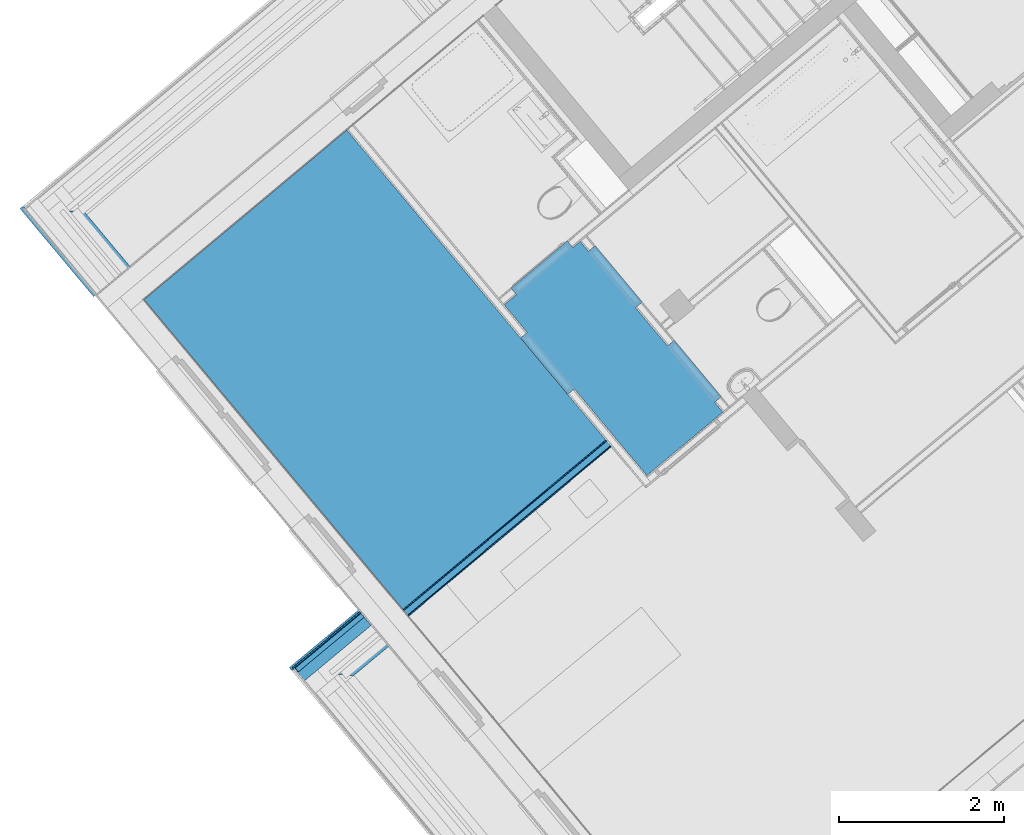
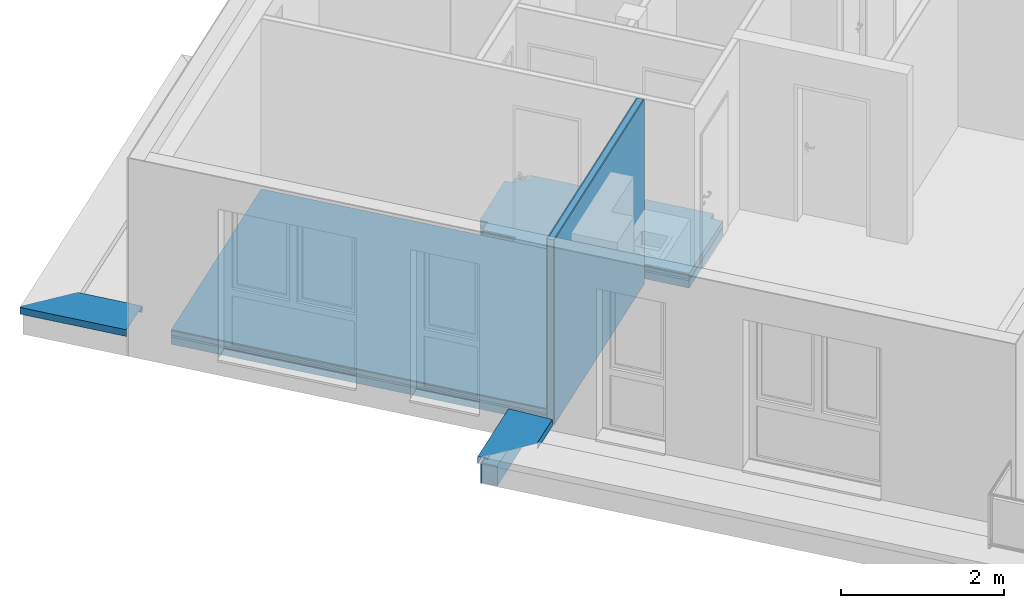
# One storey, part 24 of 61: 16 building element parts, 5 elements without a shape of their own.
"""IFC4 building model written with IfcOpenShell, lengths in metres."""

from ifc_helpers import new_model, entity, si_unit, converted_unit, derived_unit, direction, frame, origin_with_axes, place, context, subcontext, project, spatial, polygons, material, type_object, element, aggregate, save


model = new_model("IFC4")

# Units and contexts
model_context = context("Model", 3, precision=1e-05, world=origin_with_axes(), true_north=direction((0.0, 1.0)))
body_context = subcontext(model_context, "Body", "Model", "MODEL_VIEW")
ifc_project = project(units=[si_unit("LENGTHUNIT", "METRE"), si_unit("AREAUNIT", "SQUARE_METRE"), si_unit("VOLUMEUNIT", "CUBIC_METRE"), converted_unit("PLANEANGLEUNIT", "DEGREE", entity("IfcPlaneAngleMeasure", 0.0174532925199), si_unit("PLANEANGLEUNIT", "RADIAN"), dimensions=[0, 0, 0, 0, 0, 0, 0]), converted_unit("TIMEUNIT", "Year", entity("IfcTimeMeasure", 31556926.0), si_unit("TIMEUNIT", "SECOND"), dimensions=[0, 0, 1, 0, 0, 0, 0]), si_unit("MASSUNIT", "GRAM", prefix="KILO"), si_unit("THERMODYNAMICTEMPERATUREUNIT", "DEGREE_CELSIUS"), si_unit("LUMINOUSINTENSITYUNIT", "LUMEN"), si_unit("ENERGYUNIT", "JOULE", prefix="MEGA"), derived_unit("THERMALCONDUCTANCEUNIT", [(si_unit("POWERUNIT", "WATT"), 1), (si_unit("LENGTHUNIT", "METRE"), -1), (si_unit("THERMODYNAMICTEMPERATUREUNIT", "KELVIN"), -1)]), derived_unit("SPECIFICHEATCAPACITYUNIT", [(si_unit("ENERGYUNIT", "JOULE"), 1), (si_unit("MASSUNIT", "GRAM", prefix="KILO"), -1), (si_unit("THERMODYNAMICTEMPERATUREUNIT", "KELVIN"), -1)]), derived_unit("MASSDENSITYUNIT", [(si_unit("MASSUNIT", "GRAM", prefix="KILO"), 1), (si_unit("VOLUMEUNIT", "CUBIC_METRE"), -1)])], contexts=[model_context])

# Site, building, storey
site_placement = place(None, frame((-0.00153261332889, -0.00661245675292, 0.0), z_axis=(0.0, 0.0, 1.0), x_axis=(1.0, 0.0, 0.0)))
site = spatial("IfcSite", under=ifc_project, at=site_placement, Name="Gelände", CompositionType="ELEMENT")
building_placement = place(site_placement, origin_with_axes())
building = spatial("IfcBuilding", under=site, at=building_placement, Name="Gebäude", CompositionType="ELEMENT")
storey_placement = place(building_placement, frame((0.0, 0.0, 5.7), z_axis=(0.0, 0.0, 1.0), x_axis=(1.0, 0.0, 0.0)))
storey = spatial("IfcBuildingStorey", under=building, at=storey_placement, Name="DG1", CompositionType="ELEMENT", Elevation=5.7)

# Wall, building element parts
wall_type_1 = type_object("IfcWallType", Name="IW LB 01 Leichtbautrennwand einfach 10,5 cm 105", PredefinedType="NOTDEFINED")
wall_1_placement = place(storey_placement, frame((-2.49988703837, 17.264591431, 0.0), z_axis=(0.0, 0.0, 1.0), x_axis=(-0.767365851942, -0.641209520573, 0.0)))
wall_1 = element("IfcWall", 1, at=wall_1_placement, inside=storey, type_object=wall_type_1, Name="Wand-012", PredefinedType="NOTDEFINED")
ifc_material_1 = material(Name="Gipskarton")
building_element_part_1_placement = place(wall_1_placement, origin_with_axes())
building_element_part_1 = element("IfcBuildingElementPart", 2, at=building_element_part_1_placement, material=ifc_material_1, Name="Gipskarton", PredefinedType="NOTDEFINED", context=body_context, shape_type="Tessellation", body=[
    polygons([(3.20025354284, 0.09, 0.0), (0.0, 0.09, 0.0), (0.0, 0.105, 0.0), (3.20025354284, 0.105, 0.0), (3.20025354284, 0.09, 2.76), (0.0, 0.09, 2.76), (0.0, 0.105, 2.76), (3.20025354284, 0.105, 2.76)], [[[1, 2, 3, 4]], [[5, 6, 2, 1]], [[3, 2, 6, 7]], [[4, 3, 7, 8]], [[4, 8, 5, 1]], [[8, 7, 6, 5]]], closed=True),
])
ifc_material_2 = material(Name="Mineralwolle weich")
building_element_part_2_placement = place(wall_1_placement, origin_with_axes())
building_element_part_2 = element("IfcBuildingElementPart", 3, at=building_element_part_2_placement, material=ifc_material_2, Name="Mineralwolle weich", PredefinedType="NOTDEFINED", context=body_context, shape_type="Tessellation", body=[
    polygons([(3.20025354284, 0.015, 0.0), (0.0, 0.015, 0.0), (0.0, 0.09, 0.0), (3.20025354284, 0.09, 0.0), (3.20025354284, 0.015, 2.76), (0.0, 0.015, 2.76), (0.0, 0.09, 2.76), (3.20025354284, 0.09, 2.76)], [[[1, 2, 3, 4]], [[5, 6, 2, 1]], [[3, 2, 6, 7]], [[4, 3, 7, 8]], [[4, 8, 5, 1]], [[8, 7, 6, 5]]], closed=True),
])
building_element_part_3_placement = place(wall_1_placement, origin_with_axes())
building_element_part_3 = element("IfcBuildingElementPart", 4, at=building_element_part_3_placement, material=ifc_material_1, Name="Gipskarton", PredefinedType="NOTDEFINED", context=body_context, shape_type="Tessellation", body=[
    polygons([(3.20025354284, 0.0, 0.0), (0.0, 0.0, 0.0), (0.0, 0.015, 0.0), (3.20025354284, 0.015, 0.0), (3.20025354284, 0.0, 2.76), (0.0, 0.0, 2.76), (0.0, 0.015, 2.76), (3.20025354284, 0.015, 2.76)], [[[1, 2, 3, 4]], [[5, 6, 2, 1]], [[3, 2, 6, 7]], [[4, 3, 7, 8]], [[4, 8, 5, 1]], [[8, 7, 6, 5]]], closed=True),
])
aggregate(wall_1, [building_element_part_1, building_element_part_2, building_element_part_3])

# Space
space_placement = place(storey_placement, frame((-3.73003284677, 18.9005183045, 0.0), z_axis=(0.0, 0.0, 1.0), x_axis=(0.641209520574, -0.767365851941, 0.0)))
space = spatial("IfcSpace", under=storey, at=space_placement, CompositionType="ELEMENT", PredefinedType="NOTDEFINED")

# Covering, building element parts
covering_type_1 = type_object("IfcCoveringType", Name="DE 01 Decke Wohnung/Wohnung Fließen 220", PredefinedType="NOTDEFINED")
covering_1_placement = place(space_placement, frame((-0.000120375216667, 0.192623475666, 0.22), z_axis=(0.0, 0.0, 1.0), x_axis=(0.641209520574, 0.767365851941, 0.0)))
covering_1 = element("IfcCovering", 5, at=covering_1_placement, inside=space, type_object=covering_type_1, Name="Decke-003", PredefinedType="NOTDEFINED")
ifc_material_3 = material(Name="Fliesen")
building_element_part_4_placement = place(covering_1_placement, origin_with_axes())
building_element_part_4 = element("IfcBuildingElementPart", 6, at=building_element_part_4_placement, material=ifc_material_3, Name="Fliesen", PredefinedType="NOTDEFINED", context=body_context, shape_type="Tessellation", body=[
    polygons([(0.772026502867, 0.645686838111, -0.015), (0.772026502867, 0.645686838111, 0.0), (0.871992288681, 0.526053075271, 0.0), (0.871992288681, 0.526053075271, -0.015), (0.682704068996, 0.570977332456, 0.0), (0.682704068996, 0.570977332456, -0.015), (0.6825988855, 0.57110308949, 0.0), (0.615338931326, 0.651518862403, 0.0), (-0.0673464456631, 0.0805191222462, 0.0), (-1.94673659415e-08, -1.62825521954e-08, 0.0), (1.87046381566e-05, -2.24027601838e-05, 0.0), (-0.147735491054, -0.123604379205, 0.0), (0.13108354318, -0.457280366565, 0.0), (0.0505101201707, -0.524607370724, 0.0), (0.621186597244, -1.20756298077, 0.0), (0.701760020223, -1.14023597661, 0.0), (1.57974343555, -2.1909603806, 0.0), (2.49986944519, -1.42210479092, 0.0), (2.40026170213, -1.30289938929, 0.0), (2.48083508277, -1.23557242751, 0.0), (1.91015864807, -0.552616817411, 0.0), (1.82958522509, -0.61994382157, 0.0), (1.44266872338, -0.156902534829, 0.0), (1.52324214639, -0.0895755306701, 0.0), (0.952565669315, 0.59338007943, 0.0), (0.952565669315, 0.59338007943, -0.015), (1.52324214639, -0.0895755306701, -0.015), (1.44266872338, -0.156902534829, -0.015), (1.82958522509, -0.61994382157, -0.015), (1.91015864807, -0.552616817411, -0.015), (2.48083508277, -1.23557242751, -0.015), (2.40026170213, -1.30289938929, -0.015), (2.49986944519, -1.42210479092, -0.015), (1.57974343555, -2.1909603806, -0.015), (0.701760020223, -1.14023597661, -0.015), (0.621186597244, -1.20756298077, -0.015), (0.0505101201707, -0.524607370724, -0.015), (0.13108354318, -0.457280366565, -0.015), (-0.147735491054, -0.123604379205, -0.015), (1.87046381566e-05, -2.24027601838e-05, -0.015), (-1.94673659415e-08, -1.62825521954e-08, -0.015), (-0.0673464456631, 0.0805191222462, -0.015), (0.615338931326, 0.651518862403, -0.015), (0.6825988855, 0.57110308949, -0.015)], [[[1, 2, 3, 4]], [[5, 2, 1, 6]], [[5, 7, 8, 9, 10, 11, 12, 13, 14, 15, 16, 17, 18, 19, 20, 21, 22, 23, 24, 25, 3, 2]], [[26, 4, 3, 25]], [[6, 1, 4, 26, 27, 28, 29, 30, 31, 32, 33, 34, 35, 36, 37, 38, 39, 40, 41, 42, 43, 44]], [[7, 5, 6, 44]], [[7, 44, 43, 8]], [[43, 42, 9, 8]], [[41, 10, 9, 42]], [[11, 10, 41, 40]], [[12, 11, 40, 39]], [[12, 39, 38, 13]], [[38, 37, 14, 13]], [[37, 36, 15, 14]], [[36, 35, 16, 15]], [[35, 34, 17, 16]], [[34, 33, 18, 17]], [[33, 32, 19, 18]], [[32, 31, 20, 19]], [[31, 30, 21, 20]], [[30, 29, 22, 21]], [[29, 28, 23, 22]], [[28, 27, 24, 23]], [[27, 26, 25, 24]]], closed=True),
])
ifc_material_4 = material(Name="Estrich")
building_element_part_5_placement = place(covering_1_placement, origin_with_axes())
building_element_part_5 = element("IfcBuildingElementPart", 7, at=building_element_part_5_placement, material=ifc_material_4, Name="Estrich", PredefinedType="NOTDEFINED", context=body_context, shape_type="Tessellation", body=[
    polygons([(0.772026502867, 0.645686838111, -0.08), (0.772026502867, 0.645686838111, -0.015), (0.871992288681, 0.526053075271, -0.015), (0.871992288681, 0.526053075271, -0.08), (0.682704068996, 0.570977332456, -0.015), (0.682704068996, 0.570977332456, -0.08), (0.6825988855, 0.57110308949, -0.015), (0.615338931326, 0.651518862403, -0.015), (-0.0673464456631, 0.0805191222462, -0.015), (-1.94673659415e-08, -1.62825521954e-08, -0.015), (1.87046381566e-05, -2.24027601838e-05, -0.015), (-0.147735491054, -0.123604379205, -0.015), (0.13108354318, -0.457280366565, -0.015), (0.0505101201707, -0.524607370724, -0.015), (0.621186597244, -1.20756298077, -0.015), (0.701760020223, -1.14023597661, -0.015), (1.57974343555, -2.1909603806, -0.015), (2.49986944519, -1.42210479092, -0.015), (2.40026170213, -1.30289938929, -0.015), (2.48083508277, -1.23557242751, -0.015), (1.91015864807, -0.552616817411, -0.015), (1.82958522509, -0.61994382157, -0.015), (1.44266872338, -0.156902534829, -0.015), (1.52324214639, -0.0895755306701, -0.015), (0.952565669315, 0.59338007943, -0.015), (0.952565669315, 0.59338007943, -0.08), (1.52324214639, -0.0895755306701, -0.08), (1.44266872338, -0.156902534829, -0.08), (1.82958522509, -0.61994382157, -0.08), (1.91015864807, -0.552616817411, -0.08), (2.48083508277, -1.23557242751, -0.08), (2.40026170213, -1.30289938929, -0.08), (2.49986944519, -1.42210479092, -0.08), (1.57974343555, -2.1909603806, -0.08), (0.701760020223, -1.14023597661, -0.08), (0.621186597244, -1.20756298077, -0.08), (0.0505101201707, -0.524607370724, -0.08), (0.13108354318, -0.457280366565, -0.08), (-0.147735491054, -0.123604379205, -0.08), (1.87046381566e-05, -2.24027601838e-05, -0.08), (-1.94673659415e-08, -1.62825521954e-08, -0.08), (-0.0673464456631, 0.0805191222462, -0.08), (0.615338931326, 0.651518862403, -0.08), (0.6825988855, 0.57110308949, -0.08)], [[[1, 2, 3, 4]], [[5, 2, 1, 6]], [[5, 7, 8, 9, 10, 11, 12, 13, 14, 15, 16, 17, 18, 19, 20, 21, 22, 23, 24, 25, 3, 2]], [[26, 4, 3, 25]], [[6, 1, 4, 26, 27, 28, 29, 30, 31, 32, 33, 34, 35, 36, 37, 38, 39, 40, 41, 42, 43, 44]], [[7, 5, 6, 44]], [[7, 44, 43, 8]], [[43, 42, 9, 8]], [[41, 10, 9, 42]], [[11, 10, 41, 40]], [[12, 11, 40, 39]], [[12, 39, 38, 13]], [[38, 37, 14, 13]], [[37, 36, 15, 14]], [[36, 35, 16, 15]], [[35, 34, 17, 16]], [[34, 33, 18, 17]], [[33, 32, 19, 18]], [[32, 31, 20, 19]], [[31, 30, 21, 20]], [[30, 29, 22, 21]], [[29, 28, 23, 22]], [[28, 27, 24, 23]], [[27, 26, 25, 24]]], closed=True),
])
ifc_material_5 = material(Name="Trittschalldämmung")
building_element_part_6_placement = place(covering_1_placement, origin_with_axes())
building_element_part_6 = element("IfcBuildingElementPart", 8, at=building_element_part_6_placement, material=ifc_material_5, Name="Trittschalldämmung", PredefinedType="NOTDEFINED", context=body_context, shape_type="Tessellation", body=[
    polygons([(0.772026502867, 0.645686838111, -0.11), (0.772026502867, 0.645686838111, -0.08), (0.871992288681, 0.526053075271, -0.08), (0.871992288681, 0.526053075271, -0.11), (0.682704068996, 0.570977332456, -0.08), (0.682704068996, 0.570977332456, -0.11), (0.6825988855, 0.57110308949, -0.08), (0.615338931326, 0.651518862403, -0.08), (-0.0673464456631, 0.0805191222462, -0.08), (-1.94673659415e-08, -1.62825521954e-08, -0.08), (1.87046381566e-05, -2.24027601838e-05, -0.08), (-0.147735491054, -0.123604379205, -0.08), (0.13108354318, -0.457280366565, -0.08), (0.0505101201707, -0.524607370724, -0.08), (0.621186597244, -1.20756298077, -0.08), (0.701760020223, -1.14023597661, -0.08), (1.57974343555, -2.1909603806, -0.08), (2.49986944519, -1.42210479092, -0.08), (2.40026170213, -1.30289938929, -0.08), (2.48083508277, -1.23557242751, -0.08), (1.91015864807, -0.552616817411, -0.08), (1.82958522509, -0.61994382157, -0.08), (1.44266872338, -0.156902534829, -0.08), (1.52324214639, -0.0895755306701, -0.08), (0.952565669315, 0.59338007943, -0.08), (0.952565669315, 0.59338007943, -0.11), (1.52324214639, -0.0895755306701, -0.11), (1.44266872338, -0.156902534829, -0.11), (1.82958522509, -0.61994382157, -0.11), (1.91015864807, -0.552616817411, -0.11), (2.48083508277, -1.23557242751, -0.11), (2.40026170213, -1.30289938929, -0.11), (2.49986944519, -1.42210479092, -0.11), (1.57974343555, -2.1909603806, -0.11), (0.701760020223, -1.14023597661, -0.11), (0.621186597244, -1.20756298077, -0.11), (0.0505101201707, -0.524607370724, -0.11), (0.13108354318, -0.457280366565, -0.11), (-0.147735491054, -0.123604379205, -0.11), (1.87046381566e-05, -2.24027601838e-05, -0.11), (-1.94673659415e-08, -1.62825521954e-08, -0.11), (-0.0673464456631, 0.0805191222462, -0.11), (0.615338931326, 0.651518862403, -0.11), (0.6825988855, 0.57110308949, -0.11)], [[[1, 2, 3, 4]], [[5, 2, 1, 6]], [[5, 7, 8, 9, 10, 11, 12, 13, 14, 15, 16, 17, 18, 19, 20, 21, 22, 23, 24, 25, 3, 2]], [[26, 4, 3, 25]], [[6, 1, 4, 26, 27, 28, 29, 30, 31, 32, 33, 34, 35, 36, 37, 38, 39, 40, 41, 42, 43, 44]], [[7, 5, 6, 44]], [[7, 44, 43, 8]], [[43, 42, 9, 8]], [[41, 10, 9, 42]], [[11, 10, 41, 40]], [[12, 11, 40, 39]], [[12, 39, 38, 13]], [[38, 37, 14, 13]], [[37, 36, 15, 14]], [[36, 35, 16, 15]], [[35, 34, 17, 16]], [[34, 33, 18, 17]], [[33, 32, 19, 18]], [[32, 31, 20, 19]], [[31, 30, 21, 20]], [[30, 29, 22, 21]], [[29, 28, 23, 22]], [[28, 27, 24, 23]], [[27, 26, 25, 24]]], closed=True),
])
ifc_material_6 = material(Name="Schüttung")
building_element_part_7_placement = place(covering_1_placement, origin_with_axes())
building_element_part_7 = element("IfcBuildingElementPart", 9, at=building_element_part_7_placement, material=ifc_material_6, Name="Schüttung", PredefinedType="NOTDEFINED", context=body_context, shape_type="Tessellation", body=[
    polygons([(0.772026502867, 0.645686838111, -0.22), (0.772026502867, 0.645686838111, -0.11), (0.871992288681, 0.526053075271, -0.11), (0.871992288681, 0.526053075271, -0.22), (0.682704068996, 0.570977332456, -0.11), (0.682704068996, 0.570977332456, -0.22), (0.6825988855, 0.57110308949, -0.11), (0.615338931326, 0.651518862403, -0.11), (-0.0673464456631, 0.0805191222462, -0.11), (-1.94673659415e-08, -1.62825521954e-08, -0.11), (1.87046381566e-05, -2.24027601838e-05, -0.11), (-0.147735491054, -0.123604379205, -0.11), (0.13108354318, -0.457280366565, -0.11), (0.0505101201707, -0.524607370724, -0.11), (0.621186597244, -1.20756298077, -0.11), (0.701760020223, -1.14023597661, -0.11), (1.57974343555, -2.1909603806, -0.11), (2.49986944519, -1.42210479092, -0.11), (2.40026170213, -1.30289938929, -0.11), (2.48083508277, -1.23557242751, -0.11), (1.91015864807, -0.552616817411, -0.11), (1.82958522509, -0.61994382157, -0.11), (1.44266872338, -0.156902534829, -0.11), (1.52324214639, -0.0895755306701, -0.11), (0.952565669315, 0.59338007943, -0.11), (0.952565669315, 0.59338007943, -0.22), (1.52324214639, -0.0895755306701, -0.22), (1.44266872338, -0.156902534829, -0.22), (1.82958522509, -0.61994382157, -0.22), (1.91015864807, -0.552616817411, -0.22), (2.48083508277, -1.23557242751, -0.22), (2.40026170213, -1.30289938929, -0.22), (2.49986944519, -1.42210479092, -0.22), (1.57974343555, -2.1909603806, -0.22), (0.701760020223, -1.14023597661, -0.22), (0.621186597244, -1.20756298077, -0.22), (0.0505101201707, -0.524607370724, -0.22), (0.13108354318, -0.457280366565, -0.22), (-0.147735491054, -0.123604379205, -0.22), (1.87046381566e-05, -2.24027601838e-05, -0.22), (-1.94673646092e-08, -1.62825521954e-08, -0.22), (-0.0673464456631, 0.0805191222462, -0.22), (0.615338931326, 0.651518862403, -0.22), (0.682598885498, 0.571103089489, -0.22)], [[[1, 2, 3, 4]], [[5, 2, 1, 6]], [[5, 7, 8, 9, 10, 11, 12, 13, 14, 15, 16, 17, 18, 19, 20, 21, 22, 23, 24, 25, 3, 2]], [[25, 26, 4, 3]], [[6, 1, 4, 26, 27, 28, 29, 30, 31, 32, 33, 34, 35, 36, 37, 38, 39, 40, 41, 42, 43, 44]], [[7, 5, 6, 44]], [[7, 44, 43, 8]], [[8, 43, 42, 9]], [[41, 10, 9, 42]], [[11, 10, 41, 40]], [[12, 11, 40, 39]], [[12, 39, 38, 13]], [[13, 38, 37, 14]], [[14, 37, 36, 15]], [[15, 36, 35, 16]], [[16, 35, 34, 17]], [[17, 34, 33, 18]], [[18, 33, 32, 19]], [[19, 32, 31, 20]], [[20, 31, 30, 21]], [[21, 30, 29, 22]], [[22, 29, 28, 23]], [[23, 28, 27, 24]], [[24, 27, 26, 25]]], closed=True),
])
aggregate(covering_1, [building_element_part_4, building_element_part_5, building_element_part_6, building_element_part_7])

covering_type_2 = type_object("IfcCoveringType", Name="DE 01 Decke Wohnung/Wohnung Parkett 220", PredefinedType="NOTDEFINED")
covering_2_placement = place(storey_placement, frame((-5.63570752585, 21.0173764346, 0.22), z_axis=(0.0, 0.0, 1.0), x_axis=(1.0, 0.0, 0.0)))
covering_2 = element("IfcCovering", 10, at=covering_2_placement, inside=storey, type_object=covering_type_2, Name="Decke-009", PredefinedType="NOTDEFINED")
ifc_material_7 = material(Name="Parkett")
building_element_part_8_placement = place(covering_2_placement, origin_with_axes())
building_element_part_8 = element("IfcBuildingElementPart", 11, at=building_element_part_8_placement, material=ifc_material_7, Name="Parkett", PredefinedType="NOTDEFINED", context=body_context, shape_type="Tessellation", body=[
    polygons([(0.0, 0.0, -0.015), (-2.45576522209, -2.05203295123, -0.015), (-2.45576522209, -2.05203295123, 0.0), (0.0, 0.0, 0.0), (3.13582050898, -3.75278509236, -0.015), (0.680055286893, -5.8048180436, -0.015), (0.680055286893, -5.8048180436, 0.0), (3.13582050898, -3.75278509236, 0.0)], [[[1, 2, 3, 4]], [[2, 1, 5, 6]], [[2, 6, 7, 3]], [[8, 4, 3, 7]], [[5, 1, 4, 8]], [[6, 5, 8, 7]]], closed=True),
])
building_element_part_9_placement = place(covering_2_placement, origin_with_axes())
building_element_part_9 = element("IfcBuildingElementPart", 12, at=building_element_part_9_placement, material=ifc_material_4, Name="Estrich", PredefinedType="NOTDEFINED", context=body_context, shape_type="Tessellation", body=[
    polygons([(0.0, 0.0, -0.08), (-2.45576522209, -2.05203295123, -0.08), (-2.45576522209, -2.05203295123, -0.015), (0.0, 0.0, -0.015), (3.13582050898, -3.75278509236, -0.08), (0.680055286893, -5.8048180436, -0.08), (0.680055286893, -5.8048180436, -0.015), (3.13582050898, -3.75278509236, -0.015)], [[[1, 2, 3, 4]], [[2, 1, 5, 6]], [[2, 6, 7, 3]], [[8, 4, 3, 7]], [[5, 1, 4, 8]], [[6, 5, 8, 7]]], closed=True),
])
building_element_part_10_placement = place(covering_2_placement, origin_with_axes())
building_element_part_10 = element("IfcBuildingElementPart", 13, at=building_element_part_10_placement, material=ifc_material_5, Name="Trittschalldämmung", PredefinedType="NOTDEFINED", context=body_context, shape_type="Tessellation", body=[
    polygons([(0.0, 0.0, -0.11), (-2.45576522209, -2.05203295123, -0.11), (-2.45576522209, -2.05203295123, -0.08), (0.0, 0.0, -0.08), (3.13582050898, -3.75278509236, -0.11), (0.680055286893, -5.8048180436, -0.11), (0.680055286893, -5.8048180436, -0.08), (3.13582050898, -3.75278509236, -0.08)], [[[1, 2, 3, 4]], [[2, 1, 5, 6]], [[2, 6, 7, 3]], [[8, 4, 3, 7]], [[5, 1, 4, 8]], [[6, 5, 8, 7]]], closed=True),
])
building_element_part_11_placement = place(covering_2_placement, origin_with_axes())
building_element_part_11 = element("IfcBuildingElementPart", 14, at=building_element_part_11_placement, material=ifc_material_6, Name="Schüttung", PredefinedType="NOTDEFINED", context=body_context, shape_type="Tessellation", body=[
    polygons([(0.0, 0.0, -0.11), (0.0, 0.0, -0.22), (-2.45576522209, -2.05203295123, -0.22), (-2.45576522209, -2.05203295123, -0.11), (3.13582050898, -3.75278509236, -0.11), (3.13582050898, -3.75278509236, -0.22), (0.680055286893, -5.8048180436, -0.22), (0.680055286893, -5.8048180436, -0.11)], [[[1, 2, 3, 4]], [[5, 6, 2, 1]], [[3, 2, 6, 7]], [[4, 3, 7, 8]], [[5, 1, 4, 8]], [[8, 7, 6, 5]]], closed=True),
])
aggregate(covering_2, [building_element_part_8, building_element_part_9, building_element_part_10, building_element_part_11])

# Wall, building element parts
wall_type_2 = type_object("IfcWallType", Name="Bauteil - Attika Terrasse 1.DG 574 x 410", PredefinedType="NOTDEFINED")
wall_2_placement = place(storey_placement, frame((-5.34189117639, 15.0197766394, -0.2), z_axis=(0.0, 0.0, 1.0), x_axis=(-0.768971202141, -0.639283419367, 0.0)))
wall_2 = element("IfcWall", 15, at=wall_2_placement, inside=storey, type_object=wall_type_2, Name="Wand-003", PredefinedType="NOTDEFINED")
ifc_material_8 = material(Name="Stahl")
building_element_part_12_placement = place(wall_2_placement, origin_with_axes())
building_element_part_12 = element("IfcBuildingElementPart", 16, at=building_element_part_12_placement, material=ifc_material_8, Name="Stahl", PredefinedType="NOTDEFINED", context=body_context, shape_type="Tessellation", body=[
    polygons([(1.08738524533, -0.238231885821, 0.511361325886), (1.08051224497, -0.23137340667, 0.518219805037), (1.07950992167, -0.23228372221, 0.519224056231), (1.08738929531, -0.24014644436, 0.511361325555), (1.08873905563, -0.238231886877, 0.511361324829), (1.08874191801, -0.239585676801, 0.510007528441), (1.08778665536, -0.240542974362, 0.509050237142), (0.0, -0.240542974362, 0.509050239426), (0.0, -0.231373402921, 0.518219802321), (0.0, -0.232283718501, 0.519224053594), (0.0, -0.240146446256, 0.51136132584), (1.08874310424, -0.240146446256, 0.51136132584), (1.08874311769, -0.240152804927, 0.608602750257), (1.08866395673, -0.202730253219, 0.608602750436), (1.08874596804, -0.241500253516, 0.610006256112), (1.08874596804, -0.241500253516, 0.510007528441), (0.0, -0.241500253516, 0.510007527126), (0.0, -0.241500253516, 0.610006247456), (0.0, 0.332051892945, 0.589243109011), (0.0, 0.332051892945, 0.489652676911), (0.0, 0.331094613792, 0.488695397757), (0.0, 0.321878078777, 0.497911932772), (0.0, 0.32288233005, 0.498822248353), (0.0, 0.330698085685, 0.491006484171), (0.0, 0.330698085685, 0.587937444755), (0.0, -0.239276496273, 0.608570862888), (0.0, -0.240152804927, 0.608602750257), (1.08739566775, -0.240152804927, 0.608602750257), (1.0873165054, -0.202730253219, 0.608602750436), (1.086438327, -0.201849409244, 0.608570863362), (0.551370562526, 0.332051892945, 0.589243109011), (0.517247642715, 0.332051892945, 0.49100648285), (0.515893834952, 0.332051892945, 0.489652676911), (0.515333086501, 0.332051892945, 0.587938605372), (0.515333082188, 0.332051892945, 0.586106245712), (0.515333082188, 0.332051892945, 0.584015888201), (0.515333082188, 0.332051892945, 0.575979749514), (0.515333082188, 0.332051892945, 0.573880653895), (0.515333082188, 0.332051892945, 0.567947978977), (0.515333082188, 0.332051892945, 0.559999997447), (0.515333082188, 0.332051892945, 0.519224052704), (0.515333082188, 0.332051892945, 0.511361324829), (0.515333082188, 0.332051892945, 0.50905023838), (0.515333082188, 0.332051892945, 0.499999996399), (0.515333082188, 0.332051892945, 0.498822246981), (0.515333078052, 0.332051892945, 0.491006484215), (0.514938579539, 0.331094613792, 0.488695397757), (0.517254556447, 0.328783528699, 0.49100648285), (0.524174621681, 0.32187807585, 0.497911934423), (0.523168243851, 0.322882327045, 0.498822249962), (0.524170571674, 0.323792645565, 0.497911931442), (0.517250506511, 0.330698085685, 0.491006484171), (0.515335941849, 0.330698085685, 0.491006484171), (0.515335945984, 0.330698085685, 0.586106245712), (0.51533599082, 0.330698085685, 0.587937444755), (0.515335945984, 0.330698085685, 0.498822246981), (0.515335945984, 0.330698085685, 0.499999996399), (0.515335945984, 0.330698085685, 0.50905023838), (0.515335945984, 0.330698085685, 0.511361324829), (0.515335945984, 0.330698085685, 0.519224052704), (0.515335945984, 0.330698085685, 0.559999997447), (0.515335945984, 0.330698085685, 0.567947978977), (0.515335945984, 0.330698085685, 0.573880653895), (0.515335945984, 0.330698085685, 0.575979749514), (0.515335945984, 0.330698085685, 0.584015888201), (0.515336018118, 0.330666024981, 0.587938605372), (1.08651749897, -0.239276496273, 0.608570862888)], [[[1, 2, 3, 4]], [[2, 1, 5, 6, 7, 8, 9]], [[3, 2, 9, 10]], [[4, 3, 10, 11]], [[12, 5, 1, 4]], [[13, 14, 15, 16, 6, 5, 12]], [[16, 7, 6]], [[7, 16, 17, 8]], [[8, 17, 18, 19, 20, 21, 22, 23, 24, 25, 26, 27, 11, 10, 9]], [[13, 12, 4, 11, 27, 28]], [[14, 13, 28, 29]], [[30, 31, 19, 18, 15, 14, 29]], [[16, 15, 18, 17]], [[32, 33, 20, 19, 31, 34, 35, 36, 37, 38, 39, 40, 41, 42, 43, 44, 45, 46]], [[33, 47, 21, 20]], [[48, 49, 22, 21, 47]], [[49, 50, 23, 22]], [[51, 52, 53, 24, 23, 50]], [[54, 55, 25, 24, 53, 56, 57, 58, 59, 60, 61, 62, 63, 64, 65]], [[55, 66, 67, 26, 25]], [[67, 28, 27, 26]], [[67, 30, 29, 28]], [[31, 30, 67, 66, 55, 34]], [[52, 48, 47, 33, 32]], [[34, 55, 54, 35]], [[36, 35, 54, 65]], [[37, 36, 65, 64]], [[38, 37, 64, 63]], [[39, 38, 63, 62]], [[40, 39, 62, 61]], [[41, 40, 61, 60]], [[42, 41, 60, 59]], [[58, 43, 42, 59]], [[57, 44, 43, 58]], [[56, 45, 44, 57]], [[45, 56, 53, 46]], [[52, 32, 46, 53]], [[48, 52, 51, 49]], [[49, 51, 50]]], closed=True),
])
ifc_material_9 = material(Name="EPS 1")
building_element_part_13_placement = place(wall_2_placement, origin_with_axes())
building_element_part_13 = element("IfcBuildingElementPart", 17, at=building_element_part_13_placement, material=ifc_material_9, Name="EPS 1", PredefinedType="NOTDEFINED", context=body_context, shape_type="Tessellation", body=[
    polygons([(1.04715779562, -0.19999996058, 0.499999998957), (1.04673472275, -2.39909425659e-10, 0.499999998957), (0.0, -2.39909425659e-10, 0.499999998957), (0.0, -0.19999996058, 0.499999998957), (1.04673472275, -2.39909425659e-10, 0.498822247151), (1.04715779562, -0.19999996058, 0.498822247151), (1.04673472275, -2.39909425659e-10, 0.49100648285), (1.04673472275, -2.39909425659e-10, 0.488695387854), (1.04673472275, -2.39909425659e-10, 0.335), (1.04673472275, -2.39907649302e-10, 0.2), (0.0, -2.39909425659e-10, 0.2), (0.0, -0.19999996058, 0.2), (1.04715779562, -0.19999996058, 0.2), (1.04715779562, -0.19999996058, 0.335), (1.04715779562, -0.19999996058, 0.488695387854), (1.04715779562, -0.19999996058, 0.49100648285)], [[[1, 2, 3, 4]], [[5, 2, 1, 6]], [[2, 5, 7, 8, 9, 10, 11, 3]], [[12, 4, 3, 11]], [[6, 1, 4, 12, 13, 14, 15, 16]], [[5, 6, 16, 7]], [[7, 16, 15, 8]], [[8, 15, 14, 9]], [[9, 14, 13, 10]], [[10, 13, 12, 11]]], closed=True),
])
ifc_material_10 = material(Name="Vollholz")
building_element_part_14_placement = place(wall_2_placement, origin_with_axes())
building_element_part_14 = element("IfcBuildingElementPart", 18, at=building_element_part_14_placement, material=ifc_material_10, Name="Vollholz", PredefinedType="NOTDEFINED", context=body_context, shape_type="Tessellation", body=[
    polygons([(1.03712153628, -0.189984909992, 0.586106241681), (1.03700612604, -0.130124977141, 0.584015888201), (0.0, -0.130124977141, 0.584015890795), (0.0, -0.189984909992, 0.586106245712), (1.03713277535, -0.189996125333, 0.584015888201), (1.03704924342, -0.130124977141, 0.575979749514), (1.03706050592, -0.130124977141, 0.573880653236), (1.03709233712, -0.130124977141, 0.567947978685), (1.03713498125, -0.130124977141, 0.559999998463), (0.0, -0.130124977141, 0.560000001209), (0.0, -0.190124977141, 0.560000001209), (1.03726190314, -0.190124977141, 0.559999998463), (1.0372191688, -0.190082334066, 0.567947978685), (1.03718727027, -0.190050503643, 0.573880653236), (1.03717598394, -0.190039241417, 0.575979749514)], [[[1, 2, 3, 4]], [[5, 2, 1]], [[2, 6, 7, 8, 9, 10, 3]], [[10, 11, 4, 3]], [[5, 1, 4, 11, 12, 13, 14, 15]], [[2, 5, 15, 6]], [[6, 15, 14, 7]], [[7, 14, 13, 8]], [[8, 13, 12, 9]], [[9, 12, 11, 10]]], closed=True),
])
ifc_material_11 = material(Name="Zementputz")
building_element_part_15_placement = place(wall_2_placement, origin_with_axes())
building_element_part_15 = element("IfcBuildingElementPart", 19, at=building_element_part_15_placement, material=ifc_material_11, Name="Zementputz", PredefinedType="NOTDEFINED", context=body_context, shape_type="Tessellation", body=[
    polygons([(1.06218956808, -0.214999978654, 0.499999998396), (1.06215783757, -0.199999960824, 0.499999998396), (0.0, -0.199999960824, 0.499999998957), (0.0, -0.214999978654, 0.499999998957), (1.06215783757, -0.199999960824, 0.2), (1.06218956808, -0.214999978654, 0.2), (0.0, -0.199999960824, 0.2), (0.0, -0.214999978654, 0.2)], [[[1, 2, 3, 4]], [[5, 2, 1, 6]], [[2, 5, 7, 3]], [[3, 7, 8, 4]], [[6, 1, 4, 8]], [[5, 6, 8, 7]]], closed=True),
])
aggregate(wall_2, [building_element_part_12, building_element_part_13, building_element_part_14, building_element_part_15])

# Wall, building element part
wall_3_placement = place(storey_placement, frame((-9.25321199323, 20.0359436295, -0.2), z_axis=(0.0, 0.0, 1.0), x_axis=(0.641209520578, -0.767365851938, 0.0)))
wall_3 = element("IfcWall", 20, at=wall_3_placement, inside=storey, type_object=wall_type_2, Name="Wand-004", PredefinedType="NOTDEFINED")
building_element_part_16_placement = place(wall_3_placement, origin_with_axes())
building_element_part_16 = element("IfcBuildingElementPart", 21, at=building_element_part_16_placement, material=ifc_material_8, Name="Stahl", PredefinedType="NOTDEFINED", context=body_context, shape_type="Tessellation", body=[
    polygons([(-0.240543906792, -0.240542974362, 0.50905023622), (-0.241501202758, -0.241500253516, 0.510007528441), (-0.241501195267, -0.239585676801, 0.510007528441), (1.14646030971, -0.240542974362, 0.509050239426), (1.14646030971, -0.241500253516, 0.510007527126), (-0.241501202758, -0.241500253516, 0.610006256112), (-0.241501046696, -0.202730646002, 0.608602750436), (-0.241501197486, -0.240152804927, 0.608602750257), (-0.241501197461, -0.240146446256, 0.51136132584), (-0.241501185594, -0.238231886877, 0.511361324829), (-0.240147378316, -0.238231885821, 0.511361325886), (-0.233288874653, -0.23137340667, 0.518219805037), (1.14646030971, -0.231373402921, 0.518219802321), (1.14646030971, -0.232283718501, 0.519224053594), (1.14646030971, -0.240146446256, 0.51136132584), (1.14646030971, -0.240152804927, 0.608602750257), (1.14646030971, -0.239276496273, 0.608570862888), (1.14646030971, 0.330698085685, 0.587937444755), (1.14646030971, 0.330698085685, 0.491006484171), (1.14646030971, 0.32288233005, 0.498822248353), (1.14646030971, 0.321878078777, 0.497911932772), (1.14646030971, 0.331094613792, 0.488695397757), (1.14646030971, 0.332051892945, 0.489652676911), (1.14646030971, 0.332051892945, 0.589243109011), (1.14646030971, -0.241500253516, 0.610006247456), (0.294662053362, 0.332051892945, 0.589243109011), (-0.239277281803, -0.201849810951, 0.608570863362), (-0.240153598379, -0.202730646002, 0.608602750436), (-0.240153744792, -0.240152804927, 0.608602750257), (-0.240147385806, -0.24014644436, 0.511361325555), (-0.232284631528, -0.23228372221, 0.519224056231), (-0.23927742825, -0.239276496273, 0.608570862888), (0.330699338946, 0.330698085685, 0.587937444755), (0.330699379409, 0.33066589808, 0.587938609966), (0.330699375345, 0.330698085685, 0.586106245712), (0.330699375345, 0.330698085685, 0.584015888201), (0.330699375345, 0.330698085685, 0.575979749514), (0.330699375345, 0.330698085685, 0.573880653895), (0.330699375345, 0.330698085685, 0.567947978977), (0.330699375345, 0.330698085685, 0.559999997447), (0.330699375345, 0.330698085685, 0.519224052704), (0.330699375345, 0.330698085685, 0.511361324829), (0.330699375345, 0.330698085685, 0.50905023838), (0.330699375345, 0.330698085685, 0.499999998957), (0.330699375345, 0.330698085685, 0.498822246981), (0.33069937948, 0.330698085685, 0.491006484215), (0.328784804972, 0.330698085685, 0.491006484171), (0.321879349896, 0.323792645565, 0.497911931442), (0.32288359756, 0.322882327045, 0.498822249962), (0.321879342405, 0.32187807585, 0.497911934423), (0.328784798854, 0.328783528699, 0.49100648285), (0.331095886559, 0.331094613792, 0.488695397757), (0.330138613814, 0.332051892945, 0.489652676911), (0.32878481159, 0.332051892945, 0.49100648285), (0.330699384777, 0.332051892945, 0.491006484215), (0.330699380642, 0.332051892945, 0.498822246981), (0.330699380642, 0.332051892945, 0.499999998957), (0.330699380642, 0.332051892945, 0.50905023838), (0.330699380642, 0.332051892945, 0.511361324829), (0.330699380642, 0.332051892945, 0.519224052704), (0.330699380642, 0.332051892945, 0.559999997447), (0.330699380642, 0.332051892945, 0.567947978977), (0.330699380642, 0.332051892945, 0.573880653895), (0.330699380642, 0.332051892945, 0.575979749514), (0.330699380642, 0.332051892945, 0.584015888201), (0.330699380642, 0.332051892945, 0.586106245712), (0.330699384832, 0.332051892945, 0.587938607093)], [[[1, 2, 3]], [[2, 1, 4, 5]], [[3, 2, 6, 7, 8, 9, 10]], [[1, 3, 10, 11, 12, 13, 4]], [[5, 4, 13, 14, 15, 16, 17, 18, 19, 20, 21, 22, 23, 24, 25]], [[6, 2, 5, 25]], [[26, 27, 28, 7, 6, 25, 24]], [[29, 8, 7, 28]], [[30, 9, 8, 29, 16, 15]], [[9, 30, 11, 10]], [[30, 31, 12, 11]], [[12, 31, 14, 13]], [[31, 30, 15, 14]], [[29, 32, 17, 16]], [[33, 18, 17, 32, 34]], [[18, 33, 35, 36, 37, 38, 39, 40, 41, 42, 43, 44, 45, 46, 19]], [[47, 48, 49, 20, 19, 46]], [[49, 50, 21, 20]], [[50, 51, 52, 22, 21]], [[52, 53, 23, 22]], [[26, 24, 23, 53, 54, 55, 56, 57, 58, 59, 60, 61, 62, 63, 64, 65, 66, 67]], [[32, 27, 26, 67, 33, 34]], [[27, 32, 29, 28]], [[33, 67, 66, 35]], [[36, 35, 66, 65]], [[37, 36, 65, 64]], [[63, 38, 37, 64]], [[39, 38, 63, 62]], [[40, 39, 62, 61]], [[41, 40, 61, 60]], [[42, 41, 60, 59]], [[43, 42, 59, 58]], [[57, 44, 43, 58]], [[56, 45, 44, 57]], [[46, 45, 56, 55]], [[47, 51, 50, 48]], [[48, 50, 49]], [[47, 46, 55, 54]], [[51, 47, 54, 53, 52]]], closed=True),
])
aggregate(wall_3, [building_element_part_16])

save(model, "model.ifc")
